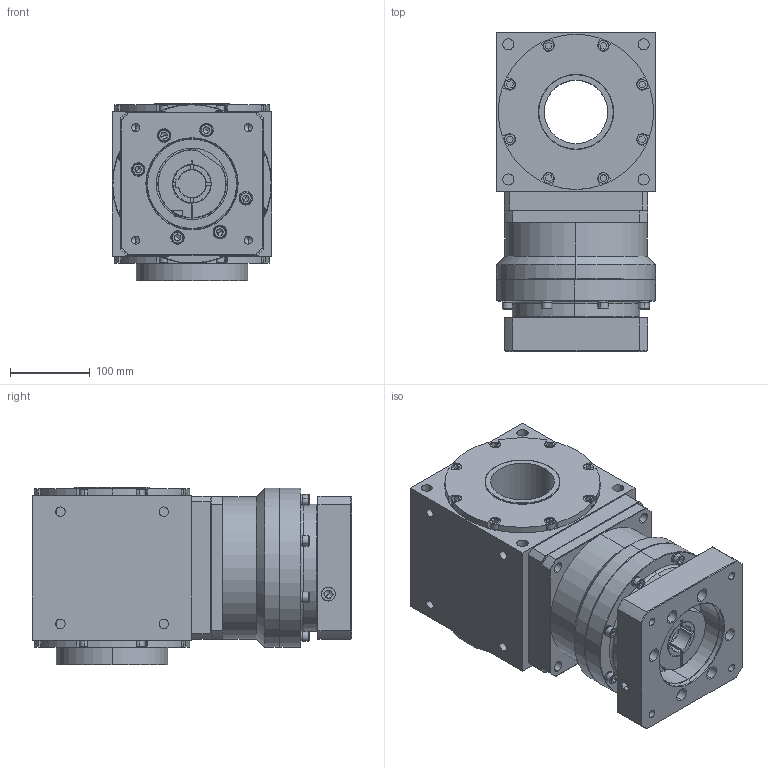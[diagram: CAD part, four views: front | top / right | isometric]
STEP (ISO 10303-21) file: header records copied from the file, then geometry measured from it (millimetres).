
FILE_DESCRIPTION (( 'STEP AP203' ), '1' );
FILE_NAME ('AAW200AS-L1-RF 35-114.3-200-M12.STEP', '2024-12-24T09:05:16', ( '' ), ( '' ), 'SwSTEP 2.0', 'SolidWorks 2021', '' );
FILE_SCHEMA (( 'CONFIG_CONTROL_DESIGN' ));
Length unit declared in the file: millimetre
Products named in the file (3): AAW200AS-RF; AAW200AS-L1-RF 35-114.3-200-M12; KS180L1-114.3-35-82-M12-200俋倛芞
Assembly tree (2 placements, depth 2):
  AAW200AS-L1-RF 35-114.3-200-M12
    AAW200AS-RF
    KS180L1-114.3-35-82-M12-200俋倛芞
Bounding box: 200 x 401 x 222.5 mm (x, y, z)
Volume: 12173869.6 mm3; surface area: 758109.2 mm2
Topology: 36 solids, 36 shells, 1223 faces, 2916 edges, 1805 vertices
Faces by surface type: plane 590, cylinder 436, cone 163, bspline 32, torus 2
Entity records: 35772 total; most frequent: CARTESIAN_POINT 7058, DIRECTION 6209, ORIENTED_EDGE 5680, EDGE_CURVE 2840, AXIS2_PLACEMENT_3D 2342, VERTEX_POINT 1805, VECTOR 1525, LINE 1525
